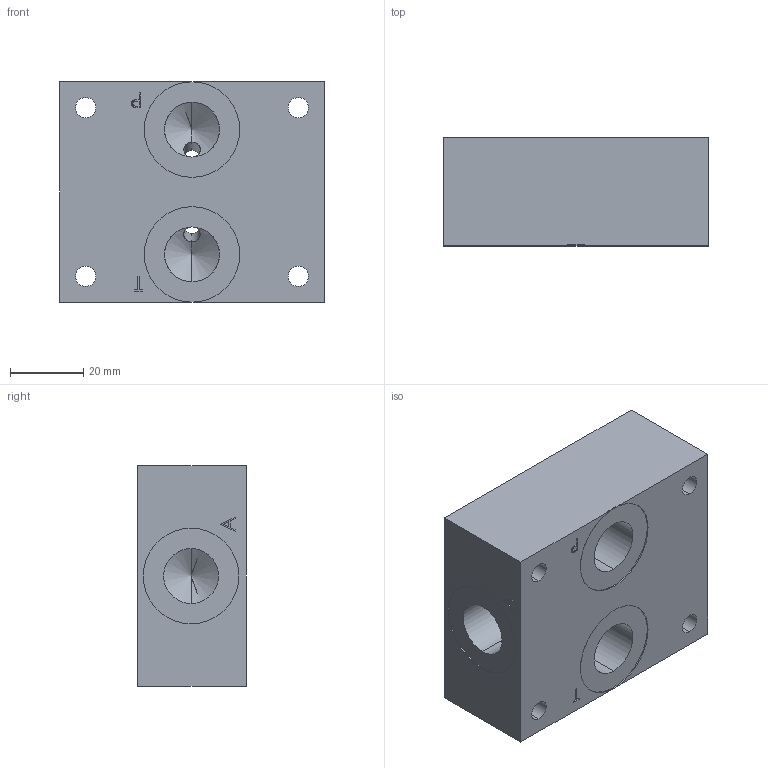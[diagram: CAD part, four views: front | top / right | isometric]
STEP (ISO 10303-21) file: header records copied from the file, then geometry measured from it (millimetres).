
FILE_DESCRIPTION (( 'STEP AP214' ), '1' );
FILE_NAME ('AGTB04.STEP', '2017-03-20T06:02:51', ( '' ), ( '' ), 'SwSTEP 2.0', 'SolidWorks 2016', '' );
FILE_SCHEMA (( 'AUTOMOTIVE_DESIGN' ));
Length unit declared in the file: millimetre
Products named in the file (1): AGTB04
Bounding box: 72 x 29.5 x 60 mm (x, y, z)
Volume: 107029.6 mm3; surface area: 23714.3 mm2
Topology: 1 solids, 1 shells, 227 faces, 575 edges, 366 vertices
Faces by surface type: plane 115, cylinder 50, bspline 42, cone 20
Entity records: 9627 total; most frequent: CARTESIAN_POINT 4259, ORIENTED_EDGE 1110, DIRECTION 923, EDGE_CURVE 555, LINE 367, VECTOR 367, VERTEX_POINT 366, AXIS2_PLACEMENT_3D 278
